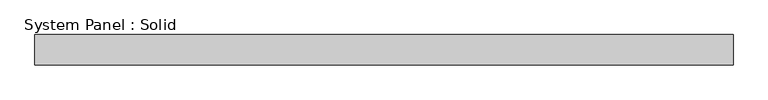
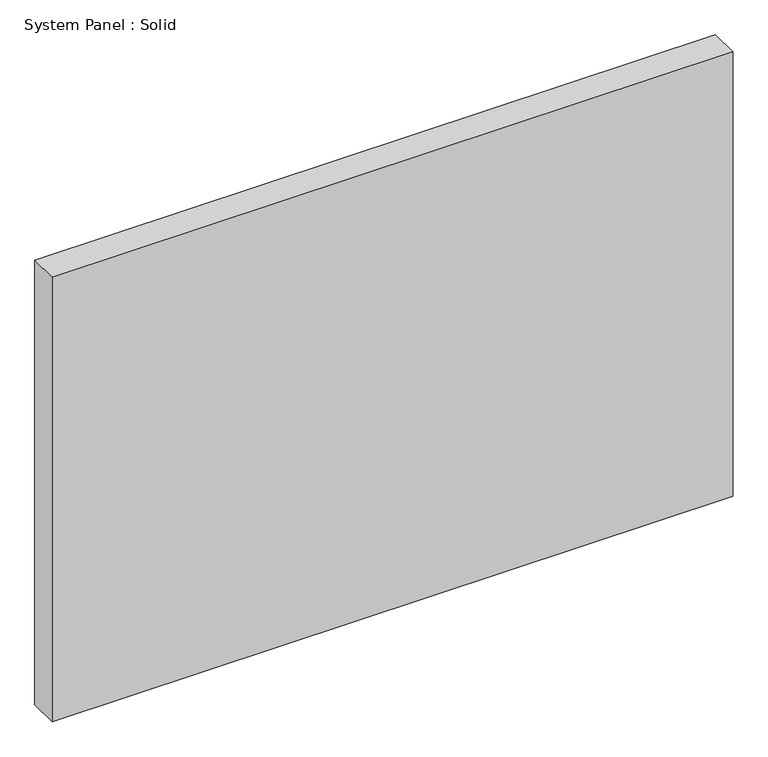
"""IFC4 building model written with IfcOpenShell, lengths in millimetres: plate geometry, System Panel : Solid."""

from ifc_helpers import new_model, si_unit, origin, origin_with_axes, place, context, project, spatial, polyline, outline, extrude, source, transform, mapped, element, save


def system_panel_solid_d860d0ae(model_context):
    return source(origin(), model_context, "Body", "SweptSolid", [
        extrude(outline(polyline([(727.075, -19.05), (-727.075, -19.05), (-727.075, 44.45), (727.075, 44.45), (727.075, -19.05)])), origin_with_axes(), (0.0, 0.0, 1.0), 1003.3),
    ])


if __name__ == "__main__":
    model = new_model("IFC4")
    model_context = context("Model", 3, world=origin())
    ifc_project = project(units=[si_unit("LENGTHUNIT", "METRE", prefix="MILLI")], contexts=[model_context])
    site = spatial("IfcSite", under=ifc_project)
    building = spatial("IfcBuilding", under=site)
    placement = place(None, origin())
    system_panel_solid_shape = system_panel_solid_d860d0ae(model_context)
    element("IfcPlate", 1, ObjectType="System Panel : Solid", at=placement, inside=building, context=model_context, shape_type="MappedRepresentation", body=[
        mapped(system_panel_solid_shape, transform((0.0, 0.0, 0.0), x_axis=(1.0, 0.0, 0.0), y_axis=(0.0, 1.0, 0.0), z_axis=(0.0, 0.0, 1.0))),
    ])
    save(model, "model.ifc")
